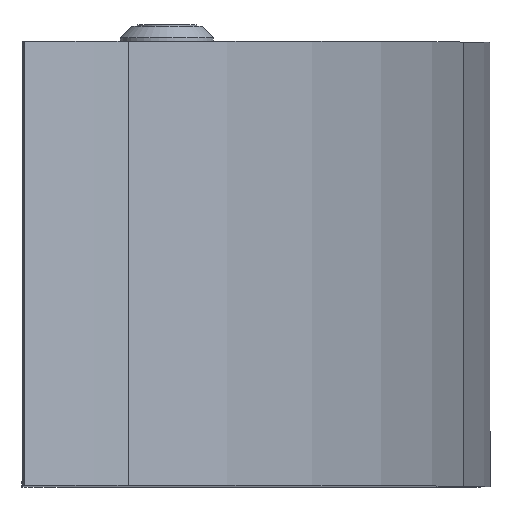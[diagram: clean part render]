
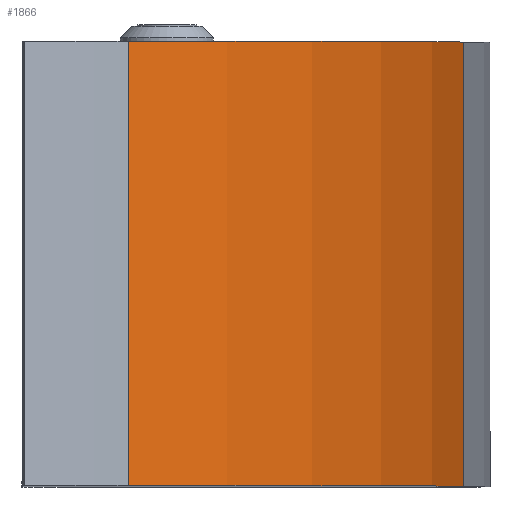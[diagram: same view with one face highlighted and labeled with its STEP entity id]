
A CAD part, top view. The second image highlights one B-rep face of the part: STEP entity #1866.
In plain terms, the highlighted cylindrical face has radius 200 mm (diameter 400 mm), a partial arc.
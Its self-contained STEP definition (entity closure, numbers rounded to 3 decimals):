
#1658=CARTESIAN_POINT('',(108.818,0.0,189.502));
#1659=VERTEX_POINT('',#1658);
#1667=CARTESIAN_POINT('',(18.597,0.,323.498));
#1668=VERTEX_POINT('',#1667);
#1669=CARTESIAN_POINT('',(-88.062,0.,154.312));
#1670=DIRECTION('',(0.,1.,0.));
#1671=DIRECTION('',(-0.533,0.,-0.846));
#1672=AXIS2_PLACEMENT_3D('',#1669,#1670,#1671);
#1673=CIRCLE('',#1672,200.);
#1674=EDGE_CURVE('',#1668,#1659,#1673,.T.);
#1823=CARTESIAN_POINT('',(108.818,119.5,189.502));
#1824=VERTEX_POINT('',#1823);
#1832=CARTESIAN_POINT('',(108.818,119.5,189.502));
#1833=DIRECTION('',(0.0,-1.0,0.0));
#1834=VECTOR('',#1833,119.5);
#1835=LINE('',#1832,#1834);
#1836=EDGE_CURVE('',#1824,#1659,#1835,.T.);
#1842=CARTESIAN_POINT('',(-88.062,59.75,154.312));
#1843=DIRECTION('',(0.,1.0,0.));
#1844=DIRECTION('',(-0.533,0.,-0.846));
#1845=AXIS2_PLACEMENT_3D('',#1842,#1843,#1844);
#1846=CYLINDRICAL_SURFACE('',#1845,200.);
#1847=CARTESIAN_POINT('',(18.597,119.5,323.498));
#1848=VERTEX_POINT('',#1847);
#1849=CARTESIAN_POINT('',(-88.062,119.5,154.312));
#1850=DIRECTION('',(0.,-1.,0.));
#1851=DIRECTION('',(-0.533,0.,-0.846));
#1852=AXIS2_PLACEMENT_3D('',#1849,#1850,#1851);
#1853=CIRCLE('',#1852,200.);
#1854=EDGE_CURVE('',#1824,#1848,#1853,.T.);
#1855=ORIENTED_EDGE('',*,*,#1854,.T.);
#1856=CARTESIAN_POINT('',(18.597,119.5,323.498));
#1857=DIRECTION('',(0.0,-1.0,0.0));
#1858=VECTOR('',#1857,119.5);
#1859=LINE('',#1856,#1858);
#1860=EDGE_CURVE('',#1848,#1668,#1859,.T.);
#1861=ORIENTED_EDGE('',*,*,#1860,.T.);
#1862=ORIENTED_EDGE('',*,*,#1674,.T.);
#1863=ORIENTED_EDGE('',*,*,#1836,.F.);
#1864=EDGE_LOOP('',(#1855,#1861,#1862,#1863));
#1865=FACE_OUTER_BOUND('',#1864,.T.);
#1866=ADVANCED_FACE('',(#1865),#1846,.T.);
